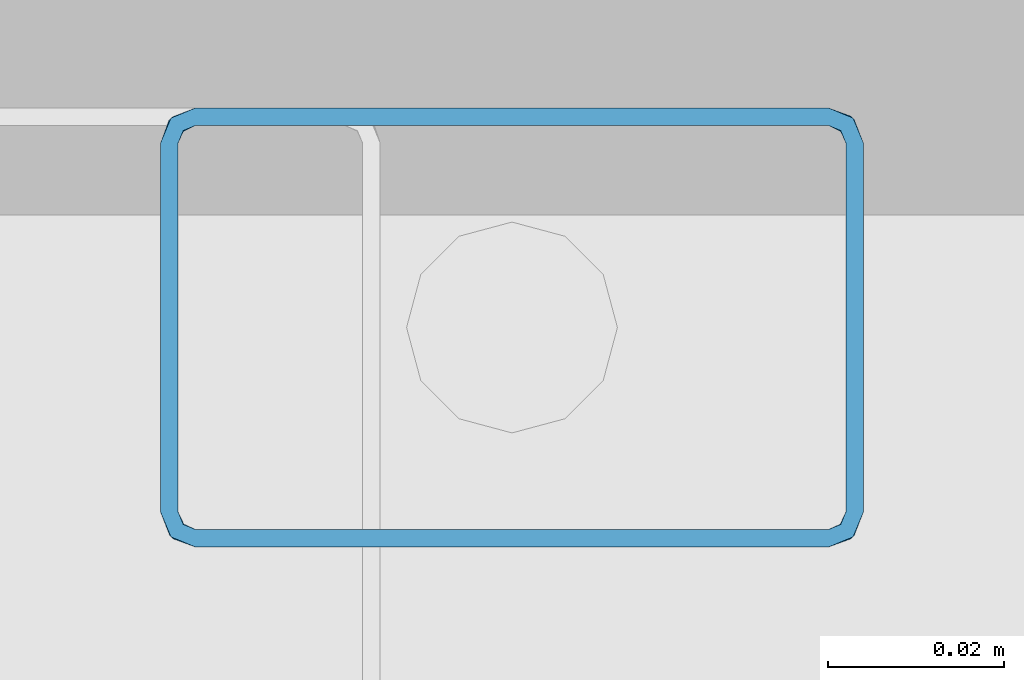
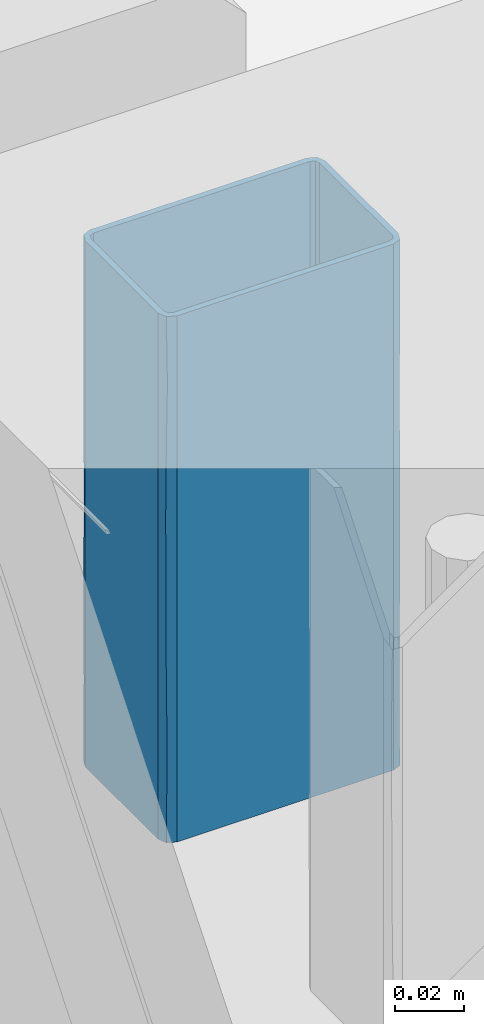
# One storey, part 143 of 186: 1 beam.
"""IFC4X3_ADD2 building model written with IfcOpenShell, lengths in millimetres."""

from ifc_helpers import new_model, si_unit, direction, frame, origin_with_axes, place, context, subcontext, project, spatial, polygons, element, save


model = new_model("IFC4X3_ADD2")

# Units and contexts
model_context = context("Model", 3, precision=1e-05, world=origin_with_axes(), true_north=direction((0.0, 1.0)))
body_context = subcontext(model_context, "Body", "Model", "MODEL_VIEW")
ifc_project = project(units=[si_unit("LENGTHUNIT", "METRE", prefix="MILLI"), si_unit("AREAUNIT", "SQUARE_METRE"), si_unit("VOLUMEUNIT", "CUBIC_METRE"), si_unit("PLANEANGLEUNIT", "RADIAN"), si_unit("TIMEUNIT", "SECOND"), si_unit("MASSUNIT", "GRAM")], contexts=[model_context])

# Site, building, storey
site_placement = place(None, origin_with_axes())
site = spatial("IfcSite", under=ifc_project, at=site_placement, Name="Site", CompositionType="ELEMENT")
building_placement = place(site_placement, origin_with_axes())
building = spatial("IfcBuilding", under=site, at=building_placement, Name="IFC Building Story")
storey_placement = place(building_placement, frame((0.0, 0.0, 4370.0), z_axis=(0.0, 0.0, 1.0), x_axis=(1.0, 0.0, 0.0)))
storey = spatial("IfcBuildingStorey", under=building, at=storey_placement, Name="ETAGE 10 (1)", Elevation=4370.0)

# Beam
beam_placement = place(storey_placement, frame((0.0, 0.0, -4370.0), z_axis=(0.0, 0.0, 1.0), x_axis=(1.0, 0.0, 0.0)))
element("IfcBeam", 1, at=beam_placement, inside=storey, Name="PS9", ObjectType="K50*80*2", context=body_context, shape_type="Tessellation", body=[
    polygons([(40134.18900000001, -14270.99999999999, 7549.598981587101), (40136.18900000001, -14270.99999999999, 7549.598981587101), (40133.60321356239, -14272.41421356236, 7549.598981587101), (40134.18900000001, -14228.99999999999, 7549.598981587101), (40136.18900000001, -14228.99999999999, 7549.598981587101), (40133.60321356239, -14227.58578643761, 7549.598981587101), (40135.01742712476, -14226.17157287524, 7549.598981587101), (40132.18900000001, -14224.99999999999, 7549.598981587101), (40132.18900000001, -14226.99999999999, 7549.598981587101), (40060.18900000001, -14224.99999999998, 7549.598981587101), (40060.18900000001, -14226.99999999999, 7549.598981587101), (40058.77478643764, -14227.58578643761, 7549.598981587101), (40057.36057287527, -14226.17157287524, 7549.598981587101), (40056.18900000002, -14228.99999999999, 7549.598981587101), (40058.18900000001, -14228.99999999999, 7549.598981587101), (40056.18900000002, -14270.99999999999, 7549.598981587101), (40058.18900000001, -14270.99999999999, 7549.598981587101), (40058.77478643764, -14272.41421356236, 7549.598981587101), (40057.36057287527, -14273.82842712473, 7549.598981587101), (40060.18900000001, -14274.99999999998, 7549.598981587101), (40060.18900000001, -14272.99999999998, 7549.598981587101), (40132.18900000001, -14272.99999999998, 7549.598981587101), (40132.18900000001, -14274.99999999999, 7549.598981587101), (40135.01742712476, -14273.82842712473, 7549.598981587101), (40058.18900000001, -14270.99999999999, 7734.598981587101), (40056.18900000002, -14270.99999999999, 7734.598981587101), (40058.77478643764, -14272.41421356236, 7734.598981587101), (40058.18900000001, -14228.99999999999, 7734.598981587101), (40056.18900000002, -14228.99999999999, 7734.598981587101), (40058.77478643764, -14227.58578643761, 7734.598981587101), (40057.36057287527, -14226.17157287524, 7734.598981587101), (40060.18900000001, -14224.99999999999, 7734.598981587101), (40060.18900000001, -14226.99999999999, 7734.598981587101), (40132.18900000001, -14224.99999999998, 7734.598981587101), (40132.18900000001, -14226.99999999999, 7734.598981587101), (40133.60321356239, -14227.58578643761, 7734.598981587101), (40135.01742712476, -14226.17157287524, 7734.598981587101), (40136.18900000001, -14228.99999999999, 7734.598981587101), (40134.18900000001, -14228.99999999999, 7734.598981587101), (40136.18900000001, -14270.99999999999, 7734.598981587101), (40134.18900000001, -14270.99999999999, 7734.598981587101), (40133.60321356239, -14272.41421356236, 7734.598981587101), (40135.01742712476, -14273.82842712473, 7734.598981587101), (40132.18900000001, -14274.99999999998, 7734.598981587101), (40132.18900000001, -14272.99999999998, 7734.598981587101), (40060.18900000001, -14272.99999999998, 7734.598981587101), (40060.18900000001, -14274.99999999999, 7734.598981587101), (40057.36057287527, -14273.82842712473, 7734.598981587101), (40060.18900000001, -14224.99999999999, 7567.057500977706), (40060.18900000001, -14224.99999999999, 7595.848981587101), (40060.18900000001, -14224.99999999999, 7618.973979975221), (40060.18900000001, -14224.99999999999, 7642.098981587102), (40060.18900000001, -14224.99999999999, 7665.22398319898), (40060.18900000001, -14224.99999999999, 7688.348981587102), (40060.18900000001, -14224.99999999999, 7717.140462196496), (40132.18900000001, -14224.99999999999, 7699.681936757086), (40132.18900000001, -14224.99999999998, 7677.016027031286), (40132.18900000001, -14224.99999999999, 7648.224549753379), (40132.18900000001, -14224.99999999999, 7619.433072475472), (40132.18900000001, -14224.99999999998, 7584.516026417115), (40134.87113952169, -14226.03248798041, 7688.348979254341), (40136.18900000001, -14228.99999999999, 7717.140460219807), (40136.18900000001, -14228.99999999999, 7567.057505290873), (40135.13732995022, -14226.29678885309, 7578.945875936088), (40135.13076139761, -14226.28964211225, 7653.661479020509), (40136.18900000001, -14228.99999999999, 7665.223981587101), (40135.13085629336, -14226.28974511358, 7628.466971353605), (40134.76834546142, -14225.94271738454, 7711.526446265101), (40136.18900000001, -14228.99999999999, 7688.348981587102), (40134.75782180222, -14225.93386977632, 7602.891747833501), (40136.18900000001, -14228.99999999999, 7642.098981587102), (40136.18900000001, -14228.99999999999, 7618.9739815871), (40136.18900000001, -14228.99999999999, 7595.848981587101), (40136.18900000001, -14270.99999999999, 7717.140458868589), (40136.18900000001, -14270.99999999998, 7688.348981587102), (40136.18900000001, -14270.99999999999, 7665.223981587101), (40136.18900000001, -14270.99999999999, 7642.098981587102), (40136.18900000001, -14270.99999999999, 7618.9739815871), (40136.18900000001, -14270.99999999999, 7595.848981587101), (40136.18900000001, -14270.99999999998, 7567.057504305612), (40135.13733021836, -14273.70321085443, 7705.252077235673), (40134.76834551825, -14274.05728256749, 7572.671514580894), (40134.87113952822, -14273.96751201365, 7595.848979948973), (40132.18900000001, -14274.99999999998, 7584.516027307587), (40132.18900000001, -14274.99999999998, 7607.181936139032), (40135.13076137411, -14273.71035791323, 7630.536479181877), (40132.18900000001, -14274.99999999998, 7699.681935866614), (40134.75782193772, -14274.06613011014, 7681.306206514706), (40135.13085619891, -14273.71025498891, 7655.73098495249), (40132.18900000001, -14274.99999999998, 7664.764890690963), (40132.18900000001, -14274.99999999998, 7635.973413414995), (40060.18900000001, -14274.99999999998, 7699.681936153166), (40060.18900000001, -14274.99999999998, 7670.890458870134), (40060.18900000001, -14274.99999999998, 7642.098981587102), (40060.18900000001, -14274.99999999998, 7618.973981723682), (40060.18900000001, -14274.99999999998, 7595.848981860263), (40060.18900000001, -14274.99999999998, 7567.057504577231), (40056.18900000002, -14270.99999999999, 7584.516027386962), (40056.18900000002, -14270.99999999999, 7619.433073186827), (40057.34856484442, -14273.81636789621, 7607.411479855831), (40056.18900000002, -14270.99999999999, 7699.681935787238), (40057.36057299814, -14273.8284272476, 7688.348976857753), (40057.60086179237, -14274.04984272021, 7711.473977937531), (40057.53711678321, -14273.99458100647, 7583.376471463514), (40057.22149317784, -14273.68214527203, 7663.470051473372), (40057.29673344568, -14273.76311313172, 7640.418718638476), (40056.18900000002, -14270.99999999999, 7677.01602659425), (40056.18900000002, -14270.99999999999, 7648.224549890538), (40056.18900000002, -14228.99999999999, 7699.681936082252), (40056.18900000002, -14228.99999999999, 7677.016027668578), (40056.18900000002, -14228.99999999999, 7648.224550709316), (40056.18900000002, -14228.99999999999, 7619.433072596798), (40056.18900000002, -14228.99999999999, 7584.516027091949), (40057.22148794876, -14226.31786051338, 7688.348978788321), (40057.48578884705, -14226.05167005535, 7578.945875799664), (40057.4786421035, -14226.05823861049, 7653.661478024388), (40057.47874509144, -14226.05814372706, 7628.466970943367), (40057.13171738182, -14226.42065454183, 7711.526445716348), (40057.12286975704, -14226.43117822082, 7602.891747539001), (40058.82900168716, -14227.53357421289, 7625.929039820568), (40058.18900000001, -14228.99999999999, 7623.66922028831), (40058.87417837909, -14227.49293526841, 7613.583468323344), (40058.61029313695, -14227.77212189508, 7664.531819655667), (40058.7117213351, -14227.65179832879, 7653.749277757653), (40060.18900000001, -14226.99999999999, 7665.223981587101), (40058.82900170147, -14227.53357419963, 7693.738959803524), (40058.18900000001, -14228.99999999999, 7702.259100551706), (40058.18900000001, -14228.99999999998, 7691.479140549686), (40058.18900000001, -14228.99999999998, 7680.699180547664), (40058.70209668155, -14227.6624206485, 7641.817961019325), (40060.18900000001, -14226.99999999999, 7642.098981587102), (40060.18900000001, -14226.99999999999, 7722.253941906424), (40058.77478646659, -14227.58578640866, 7717.646499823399), (40060.18900000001, -14226.99999999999, 7709.90890222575), (40058.78342951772, -14227.57719586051, 7705.830626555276), (40058.18900000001, -14228.99999999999, 7722.25394171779), (40058.18900000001, -14228.99999999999, 7561.94402094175), (40058.77478641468, -14227.58578646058, 7568.11654096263), (40060.18900000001, -14226.99999999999, 7561.944021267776), (40058.18900000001, -14228.99999999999, 7636.014260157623), (40058.18900000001, -14228.99999999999, 7586.634100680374), (40058.72836652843, -14227.63378264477, 7580.461580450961), (40058.77478639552, -14227.58578647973, 7592.806619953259), (40058.71633825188, -14227.64675671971, 7675.309197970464), (40060.18900000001, -14226.99999999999, 7688.348981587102), (40058.18900000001, -14228.99999999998, 7598.979140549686), (40058.18900000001, -14228.99999999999, 7574.289060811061), (40060.18900000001, -14226.99999999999, 7586.63410062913), (40060.18900000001, -14226.99999999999, 7574.289060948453), (40058.18900000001, -14228.99999999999, 7713.039061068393), (40060.18900000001, -14226.99999999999, 7699.128941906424), (40058.18900000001, -14228.99999999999, 7659.139259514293), (40058.18900000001, -14228.99999999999, 7648.359299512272), (40058.18900000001, -14228.99999999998, 7669.919220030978), (40060.18900000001, -14226.99999999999, 7653.661481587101), (40060.18900000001, -14226.99999999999, 7631.319021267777), (40060.18900000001, -14226.99999999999, 7676.786481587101), (40060.18900000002, -14226.99999999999, 7620.539060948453), (40058.18900000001, -14228.99999999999, 7611.324180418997), (40058.633445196, -14227.74292034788, 7603.287688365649), (40060.18900000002, -14226.99999999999, 7609.759100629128), (40060.18900000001, -14226.99999999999, 7598.979140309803), (40058.18900000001, -14270.99999999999, 7722.253941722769), (40058.18900000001, -14270.99999999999, 7709.908901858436), (40058.18900000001, -14270.99999999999, 7699.128941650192), (40058.18900000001, -14270.99999999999, 7688.348981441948), (40058.18900000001, -14270.99999999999, 7676.786481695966), (40058.18900000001, -14270.99999999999, 7665.223981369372), (40058.18900000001, -14270.99999999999, 7653.661481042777), (40058.18900000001, -14270.99999999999, 7642.098981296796), (40058.18900000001, -14270.99999999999, 7630.536481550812), (40058.18900000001, -14270.99999999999, 7618.973981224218), (40058.18900000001, -14270.99999999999, 7607.411480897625), (40058.18900000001, -14270.99999999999, 7595.848981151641), (40058.18900000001, -14270.99999999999, 7585.069020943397), (40058.18900000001, -14270.99999999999, 7574.289060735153), (40058.18900000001, -14270.99999999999, 7561.944021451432), (40058.70496062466, -14272.3407561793, 7659.44273014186), (40058.66485584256, -14272.29498439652, 7647.880618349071), (40058.87424681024, -14272.50712443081, 7621.237918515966), (40058.70296043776, -14272.33853891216, 7636.317730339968), (40060.18900000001, -14272.99999999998, 7625.058702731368), (40060.18900000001, -14272.99999999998, 7561.944020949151), (40058.77478644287, -14272.41421356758, 7566.551461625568), (40060.18900000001, -14272.99999999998, 7571.158902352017), (40058.72257418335, -14272.35999828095, 7579.67904054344), (40058.70041971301, -14272.33571281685, 7694.823087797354), (40058.71734898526, -14272.35434238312, 7682.567730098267), (40060.18900000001, -14272.99999999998, 7648.18370400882), (40058.73451716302, -14272.37276351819, 7591.347273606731), (40060.18900000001, -14272.99999999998, 7581.938862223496), (40060.18900000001, -14272.99999999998, 7722.25394222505), (40060.18900000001, -14272.99999999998, 7685.218823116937), (40058.77478642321, -14272.41421354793, 7716.08142123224), (40060.18900000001, -14272.99999999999, 7709.908901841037), (40060.18900000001, -14272.99999999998, 7672.873782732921), (40058.66529696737, -14272.29550340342, 7671.008022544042), (40060.18900000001, -14272.99999999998, 7660.528743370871), (40058.83575669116, -14272.47266172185, 7608.888762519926), (40060.18900000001, -14272.99999999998, 7614.278742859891), (40060.18900000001, -14272.99999999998, 7603.498782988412), (40060.18900000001, -14272.99999999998, 7592.718822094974), (40060.18900000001, -14272.99999999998, 7697.563862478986), (40058.91915055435, -14272.54514801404, 7705.388109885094), (40060.18900000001, -14272.99999999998, 7635.838663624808), (40132.18900000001, -14272.99999999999, 7722.253942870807), (40132.18900000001, -14272.99999999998, 7711.473981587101), (40132.18900000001, -14272.99999999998, 7699.9114815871), (40132.18900000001, -14272.99999999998, 7688.348981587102), (40132.18900000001, -14272.99999999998, 7676.786481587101), (40132.18900000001, -14272.99999999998, 7665.223981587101), (40132.18900000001, -14272.99999999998, 7653.661481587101), (40132.18900000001, -14272.99999999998, 7642.098981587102), (40132.18900000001, -14272.99999999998, 7630.536481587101), (40132.18900000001, -14272.99999999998, 7618.9739815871), (40132.18900000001, -14272.99999999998, 7607.411481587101), (40132.18900000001, -14272.99999999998, 7595.848981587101), (40132.18900000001, -14272.99999999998, 7585.069020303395), (40132.18900000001, -14272.99999999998, 7574.289060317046), (40132.18900000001, -14272.99999999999, 7561.944020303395), (40133.52975615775, -14272.48403939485, 7659.442730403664), (40133.48398437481, -14272.52414417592, 7647.880618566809), (40133.69612441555, -14272.31475320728, 7621.237918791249), (40133.52753889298, -14272.48603957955, 7636.317730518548), (40134.18900000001, -14270.99999999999, 7625.058703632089), (40133.47519377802, -14272.53156964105, 7705.518256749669), (40134.18900000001, -14270.99999999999, 7561.944022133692), (40133.60321356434, -14272.41421356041, 7566.551461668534), (40134.18900000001, -14270.99999999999, 7571.158902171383), (40134.18900000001, -14270.99999999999, 7722.253942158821), (40133.54899827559, -14272.46642582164, 7579.679040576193), (40134.18900000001, -14270.99999999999, 7685.218822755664), (40133.55431837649, -14272.46147382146, 7694.130230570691), (40134.18900000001, -14270.99999999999, 7697.563862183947), (40133.67461845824, -14272.33900627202, 7679.046301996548), (40133.56176351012, -14272.45448284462, 7591.347273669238), (40134.18900000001, -14270.99999999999, 7581.938862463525), (40134.18900000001, -14270.99999999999, 7709.908902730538), (40133.60321354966, -14272.41421357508, 7716.86396120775), (40134.18900000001, -14270.99999999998, 7648.183703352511), (40134.18900000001, -14270.99999999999, 7672.873783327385), (40134.18900000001, -14270.99999999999, 7660.528742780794), (40133.66166170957, -14272.35324332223, 7608.888762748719), (40134.18900000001, -14270.99999999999, 7614.278743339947), (40134.18900000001, -14270.99999999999, 7603.498783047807), (40134.18900000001, -14270.99999999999, 7592.718822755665), (40134.18900000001, -14270.99999999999, 7635.838663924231), (40134.18900000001, -14228.99999999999, 7722.253941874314), (40134.18900000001, -14228.99999999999, 7709.908902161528), (40134.18900000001, -14228.99999999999, 7697.563862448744), (40134.18900000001, -14228.99999999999, 7685.218822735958), (40134.18900000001, -14228.99999999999, 7672.873783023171), (40134.18900000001, -14228.99999999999, 7660.528743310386), (40134.18900000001, -14228.99999999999, 7648.183703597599), (40134.18900000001, -14228.99999999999, 7635.838663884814), (40134.18900000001, -14228.99999999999, 7625.0587035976), (40134.18900000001, -14228.99999999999, 7614.278743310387), (40134.18900000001, -14228.99999999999, 7603.498783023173), (40134.18900000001, -14228.99999999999, 7592.718822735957), (40134.18900000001, -14228.99999999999, 7581.938862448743), (40134.18900000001, -14228.99999999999, 7571.158902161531), (40134.18900000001, -14228.99999999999, 7561.944021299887), (40133.76770674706, -14227.77212174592, 7619.666140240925), (40133.66627859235, -14227.65179824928, 7630.448682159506), (40132.18900000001, -14226.99999999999, 7618.973981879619), (40133.5489982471, -14227.5335741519, 7658.268919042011), (40133.50382159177, -14227.49293524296, 7670.614489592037), (40133.60321360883, -14227.58578648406, 7716.081418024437), (40133.60321362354, -14227.58578649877, 7702.876051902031), (40132.18900000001, -14226.99999999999, 7709.908902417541), (40132.18900000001, -14226.99999999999, 7642.098981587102), (40133.67590326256, -14227.66242058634, 7642.379998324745), (40133.54899825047, -14227.53357415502, 7590.459000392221), (40133.59457048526, -14227.57719586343, 7578.367333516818), (40132.18900000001, -14226.99999999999, 7574.289060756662), (40133.60321356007, -14227.58578643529, 7566.551461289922), (40133.66166167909, -14227.64675664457, 7608.888761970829), (40132.18900000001, -14226.99999999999, 7595.848981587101), (40132.18900000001, -14226.99999999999, 7697.563862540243), (40133.60321352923, -14227.58578640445, 7690.510053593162), (40132.18900000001, -14226.99999999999, 7722.253941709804), (40132.18900000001, -14226.99999999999, 7561.944021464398), (40132.18900000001, -14226.99999999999, 7585.069021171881), (40132.18900000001, -14226.99999999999, 7630.536482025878), (40132.18900000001, -14226.99999999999, 7652.878942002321), (40132.18900000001, -14226.99999999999, 7607.41148173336), (40132.18900000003, -14226.99999999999, 7663.658901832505), (40132.18900000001, -14226.99999999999, 7674.438862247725), (40132.18900000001, -14226.99999999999, 7685.218822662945)], [[[1, 2, 3]], [[2, 1, 4]], [[4, 5, 2]], [[6, 5, 4]], [[7, 5, 6]], [[6, 8, 7]], [[6, 9, 8]], [[8, 9, 10]], [[11, 10, 9]], [[11, 12, 10]], [[10, 12, 13]], [[14, 13, 12]], [[14, 12, 15]], [[14, 15, 16]], [[17, 16, 15]], [[18, 16, 17]], [[16, 18, 19]], [[18, 20, 19]], [[21, 20, 18]], [[20, 21, 22]], [[3, 23, 22]], [[22, 23, 20]], [[3, 2, 24]], [[23, 3, 24]], [[25, 26, 27]], [[26, 25, 28]], [[28, 29, 26]], [[30, 29, 28]], [[31, 29, 30]], [[30, 32, 31]], [[30, 33, 32]], [[32, 33, 34]], [[35, 34, 33]], [[35, 36, 34]], [[34, 36, 37]], [[38, 37, 36]], [[38, 36, 39]], [[38, 39, 40]], [[41, 40, 39]], [[42, 40, 41]], [[40, 42, 43]], [[42, 44, 43]], [[45, 44, 42]], [[44, 45, 46]], [[27, 47, 46]], [[46, 47, 44]], [[27, 26, 48]], [[47, 27, 48]], [[55, 32, 34]], [[56, 57, 54]], [[54, 55, 34]], [[54, 34, 56]], [[57, 53, 54]], [[57, 58, 52]], [[57, 52, 53]], [[58, 59, 51]], [[58, 51, 52]], [[59, 60, 50]], [[59, 50, 51]], [[60, 8, 49]], [[60, 49, 50]], [[8, 10, 49]], [[61, 57, 56]], [[37, 38, 62]], [[63, 5, 7]], [[7, 8, 64]], [[61, 65, 57]], [[66, 65, 61]], [[67, 59, 58]], [[61, 68, 69]], [[61, 56, 68]], [[8, 60, 64]], [[67, 70, 59]], [[34, 37, 68]], [[64, 60, 70]], [[68, 62, 69]], [[58, 65, 67]], [[65, 66, 71]], [[61, 69, 66]], [[65, 71, 67]], [[57, 65, 58]], [[70, 72, 73]], [[72, 70, 67]], [[64, 73, 63]], [[60, 59, 70]], [[34, 68, 56]], [[62, 68, 37]], [[67, 71, 72]], [[73, 64, 70]], [[7, 64, 63]], [[62, 38, 40]], [[62, 40, 74]], [[74, 75, 69]], [[74, 69, 62]], [[75, 76, 66]], [[75, 66, 69]], [[76, 77, 71]], [[76, 71, 66]], [[77, 78, 72]], [[77, 72, 71]], [[78, 79, 73]], [[78, 73, 72]], [[79, 80, 63]], [[79, 63, 73]], [[80, 2, 5]], [[80, 5, 63]], [[43, 44, 81]], [[82, 79, 83]], [[84, 83, 85]], [[82, 80, 79]], [[83, 86, 85]], [[24, 2, 80]], [[74, 40, 43]], [[78, 86, 83]], [[81, 44, 87]], [[87, 88, 81]], [[89, 90, 91]], [[89, 88, 90]], [[23, 24, 82]], [[83, 84, 82]], [[91, 86, 89]], [[86, 78, 77]], [[83, 79, 78]], [[86, 77, 89]], [[85, 86, 91]], [[88, 76, 75]], [[76, 88, 89]], [[81, 75, 74]], [[87, 90, 88]], [[23, 82, 84]], [[80, 82, 24]], [[89, 77, 76]], [[75, 81, 88]], [[43, 81, 74]], [[87, 44, 47]], [[87, 47, 92]], [[92, 93, 90]], [[92, 90, 87]], [[93, 94, 91]], [[93, 91, 90]], [[95, 96, 85]], [[85, 91, 94]], [[85, 94, 95]], [[96, 84, 85]], [[97, 20, 23]], [[97, 23, 84]], [[84, 96, 97]], [[98, 16, 19]], [[99, 98, 100]], [[101, 102, 103]], [[19, 97, 104]], [[48, 103, 47]], [[94, 105, 106]], [[93, 102, 105]], [[96, 100, 104]], [[105, 102, 107]], [[26, 101, 103]], [[100, 106, 99]], [[19, 20, 97]], [[101, 107, 102]], [[105, 94, 93]], [[103, 102, 92]], [[93, 92, 102]], [[107, 108, 105]], [[105, 108, 106]], [[47, 103, 92]], [[103, 48, 26]], [[108, 99, 106]], [[96, 95, 100]], [[100, 95, 106]], [[95, 94, 106]], [[104, 100, 98]], [[19, 104, 98]], [[97, 96, 104]], [[101, 26, 29]], [[101, 29, 109]], [[109, 110, 107]], [[109, 107, 101]], [[110, 111, 108]], [[110, 108, 107]], [[111, 112, 99]], [[111, 99, 108]], [[112, 113, 98]], [[112, 98, 99]], [[113, 14, 16]], [[113, 16, 98]], [[114, 110, 109]], [[31, 32, 55]], [[49, 10, 13]], [[13, 14, 115]], [[114, 116, 110]], [[53, 116, 114]], [[117, 112, 111]], [[114, 118, 54]], [[114, 109, 118]], [[14, 113, 115]], [[117, 119, 112]], [[29, 31, 118]], [[115, 113, 119]], [[118, 55, 54]], [[111, 116, 117]], [[116, 53, 52]], [[114, 54, 53]], [[116, 52, 117]], [[110, 116, 111]], [[119, 51, 50]], [[51, 119, 117]], [[115, 50, 49]], [[113, 112, 119]], [[29, 118, 109]], [[55, 118, 31]], [[117, 52, 51]], [[50, 115, 119]], [[13, 115, 49]], [[120, 121, 122]], [[123, 124, 125]], [[126, 127, 128, 129]], [[124, 130, 131]], [[132, 30, 133]], [[134, 133, 135]], [[30, 28, 136]], [[137, 15, 12]], [[138, 12, 139]], [[120, 130, 140]], [[141, 142, 143]], [[144, 145, 126]], [[141, 143, 146]], [[137, 138, 147]], [[148, 142, 149]], [[30, 136, 133]], [[150, 133, 136]], [[12, 11, 139]], [[132, 33, 30]], [[12, 138, 137]], [[133, 134, 132]], [[150, 127, 135]], [[135, 126, 151]], [[150, 135, 133]], [[151, 126, 145]], [[152, 153, 124]], [[129, 154, 144]], [[124, 131, 155, 125]], [[130, 120, 156]], [[144, 154, 123]], [[157, 145, 144, 125]], [[129, 144, 126]], [[152, 123, 154]], [[158, 120, 122]], [[142, 138, 149]], [[142, 141, 147]], [[149, 138, 139]], [[159, 122, 121]], [[153, 130, 124]], [[159, 160, 122]], [[156, 120, 158]], [[121, 120, 140]], [[143, 160, 146]], [[161, 158, 122]], [[143, 162, 160]], [[148, 162, 143]], [[143, 142, 148]], [[138, 142, 147]], [[144, 123, 125]], [[124, 123, 152]], [[134, 135, 151]], [[135, 127, 126]], [[146, 160, 159]], [[162, 161, 160]], [[161, 122, 160]], [[156, 131, 130]], [[140, 130, 153]], [[136, 28, 25]], [[136, 25, 163]], [[163, 164, 150]], [[163, 150, 136]], [[164, 165, 127]], [[164, 127, 150]], [[165, 166, 128]], [[165, 128, 127]], [[166, 167, 129]], [[166, 129, 128]], [[167, 168, 154]], [[167, 154, 129]], [[168, 169, 152]], [[168, 152, 154]], [[169, 153, 152]], [[170, 171, 140]], [[140, 153, 169]], [[140, 169, 170]], [[171, 172, 121]], [[171, 121, 140]], [[172, 173, 159]], [[172, 159, 121]], [[173, 174, 146]], [[173, 146, 159]], [[174, 175, 141]], [[174, 141, 146]], [[175, 176, 147]], [[175, 147, 141]], [[176, 177, 137]], [[176, 137, 147]], [[177, 17, 15]], [[177, 15, 137]], [[178, 179, 169]], [[180, 181, 182]], [[163, 25, 27]], [[18, 17, 177]], [[183, 184, 185]], [[176, 175, 186]], [[187, 188, 166]], [[166, 188, 167]], [[189, 179, 178]], [[190, 186, 175]], [[186, 190, 191]], [[183, 21, 18]], [[46, 192, 27]], [[187, 193, 188]], [[163, 194, 164]], [[195, 194, 192]], [[185, 186, 191]], [[27, 194, 163]], [[196, 197, 188]], [[169, 168, 178]], [[18, 177, 176, 184]], [[198, 189, 178]], [[18, 184, 183]], [[186, 185, 184]], [[199, 200, 201]], [[176, 186, 184]], [[202, 191, 190, 201]], [[27, 192, 194]], [[190, 199, 201]], [[179, 181, 170]], [[197, 196, 198]], [[178, 168, 197]], [[193, 196, 188]], [[197, 167, 188]], [[187, 203, 193]], [[195, 204, 194]], [[165, 164, 204]], [[180, 199, 172]], [[172, 199, 174, 173]], [[199, 190, 174]], [[180, 200, 199]], [[205, 182, 181, 189]], [[171, 181, 180]], [[204, 195, 203]], [[187, 165, 204]], [[170, 181, 171]], [[180, 172, 171]], [[169, 179, 170]], [[181, 179, 189]], [[167, 197, 168]], [[198, 178, 197]], [[182, 200, 180]], [[187, 166, 165]], [[194, 204, 164]], [[187, 204, 203]], [[174, 190, 175]], [[192, 46, 45]], [[192, 45, 206]], [[206, 207, 195]], [[206, 195, 192]], [[207, 208, 203]], [[207, 203, 195]], [[208, 209, 193]], [[208, 193, 203]], [[209, 210, 196]], [[209, 196, 193]], [[210, 211, 198]], [[210, 198, 196]], [[211, 212, 189]], [[211, 189, 198]], [[213, 214, 205]], [[213, 205, 189]], [[189, 212, 213]], [[214, 182, 205]], [[214, 215, 200]], [[214, 200, 182]], [[215, 216, 201]], [[215, 201, 200]], [[216, 217, 202]], [[216, 202, 201]], [[217, 218, 191]], [[217, 191, 202]], [[218, 219, 185]], [[218, 185, 191]], [[219, 220, 183]], [[219, 183, 185]], [[220, 22, 21]], [[220, 21, 183]], [[221, 222, 212]], [[223, 224, 225]], [[208, 207, 226]], [[227, 1, 3]], [[227, 3, 228]], [[228, 229, 227]], [[42, 41, 230]], [[219, 218, 231]], [[232, 233, 234]], [[233, 235, 209]], [[208, 233, 209]], [[236, 231, 218]], [[231, 236, 237]], [[238, 226, 239]], [[206, 239, 207]], [[208, 226, 233]], [[206, 45, 42]], [[220, 219, 228]], [[228, 3, 22]], [[228, 22, 220]], [[229, 231, 237]], [[42, 230, 239]], [[42, 239, 206]], [[239, 230, 238]], [[240, 222, 221]], [[221, 235, 241]], [[212, 211, 221]], [[242, 240, 221, 241]], [[231, 229, 228]], [[243, 244, 245]], [[219, 231, 228]], [[246, 237, 236, 245]], [[241, 235, 232]], [[238, 234, 226]], [[222, 224, 213]], [[210, 209, 235, 211]], [[235, 221, 211]], [[236, 243, 245]], [[223, 243, 215]], [[215, 243, 217, 216]], [[243, 236, 217]], [[223, 244, 243]], [[247, 225, 224, 240]], [[214, 224, 223]], [[213, 224, 214]], [[223, 215, 214]], [[232, 235, 233]], [[212, 222, 213]], [[224, 222, 240]], [[234, 233, 226]], [[239, 226, 207]], [[225, 244, 223]], [[217, 236, 218]], [[230, 41, 39]], [[230, 39, 248]], [[248, 249, 238]], [[248, 238, 230]], [[249, 250, 234]], [[249, 234, 238]], [[250, 251, 232]], [[250, 232, 234]], [[251, 252, 241]], [[251, 241, 232]], [[252, 253, 242]], [[252, 242, 241]], [[253, 254, 240]], [[253, 240, 242]], [[254, 255, 247]], [[254, 247, 240]], [[255, 256, 225]], [[255, 225, 247]], [[256, 257, 244]], [[256, 244, 225]], [[257, 258, 245]], [[257, 245, 244]], [[258, 259, 246]], [[258, 246, 245]], [[259, 260, 237]], [[259, 237, 246]], [[260, 261, 229]], [[260, 229, 237]], [[261, 262, 227]], [[261, 227, 229]], [[262, 4, 1]], [[262, 1, 227]], [[263, 264, 265]], [[266, 253, 267]], [[249, 248, 268]], [[269, 268, 270]], [[271, 264, 272]], [[273, 260, 259, 258]], [[261, 260, 274]], [[275, 276, 274]], [[266, 272, 254]], [[262, 261, 276]], [[276, 6, 4]], [[276, 4, 262]], [[248, 39, 36]], [[277, 278, 273]], [[269, 279, 280]], [[35, 281, 36]], [[282, 9, 6]], [[36, 268, 248]], [[282, 6, 276]], [[281, 270, 268]], [[282, 276, 275]], [[274, 273, 283]], [[261, 274, 276]], [[283, 273, 278]], [[256, 255, 264]], [[258, 257, 277]], [[264, 271, 284, 265]], [[272, 266, 285]], [[277, 257, 263]], [[286, 278, 277, 265]], [[258, 277, 273]], [[256, 263, 257]], [[36, 281, 268]], [[249, 268, 269]], [[252, 251, 267, 253]], [[255, 272, 264]], [[287, 266, 267]], [[285, 266, 287]], [[253, 266, 254]], [[250, 249, 269]], [[280, 250, 269]], [[288, 287, 267, 289]], [[280, 289, 267]], [[277, 263, 265]], [[251, 250, 280]], [[269, 270, 279]], [[264, 263, 256]], [[275, 274, 283]], [[274, 260, 273]], [[285, 271, 272]], [[254, 272, 255]], [[251, 280, 267]], [[289, 280, 279]], [[281, 35, 33]], [[281, 33, 132]], [[132, 134, 270]], [[132, 270, 281]], [[134, 151, 279]], [[134, 279, 270]], [[151, 145, 289]], [[151, 289, 279]], [[145, 157, 288]], [[145, 288, 289]], [[157, 125, 287]], [[157, 287, 288]], [[125, 155, 285]], [[125, 285, 287]], [[155, 131, 271]], [[155, 271, 285]], [[131, 156, 284]], [[131, 284, 271]], [[156, 158, 265]], [[156, 265, 284]], [[158, 161, 286]], [[158, 286, 265]], [[161, 162, 278]], [[161, 278, 286]], [[162, 148, 283]], [[162, 283, 278]], [[148, 149, 275]], [[148, 275, 283]], [[149, 139, 282]], [[149, 282, 275]], [[139, 11, 9]], [[139, 9, 282]]]),
])

save(model, "model.ifc")
